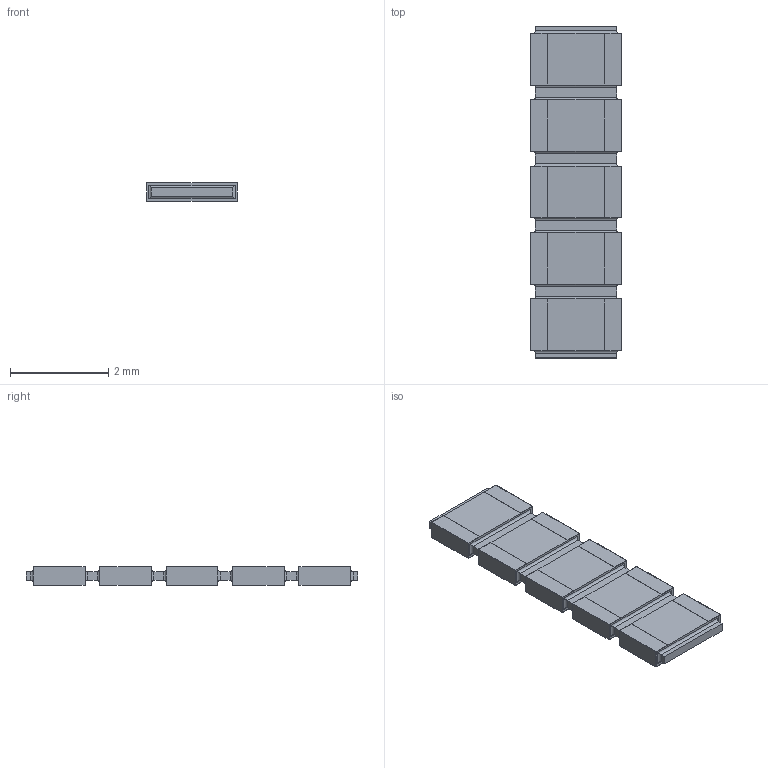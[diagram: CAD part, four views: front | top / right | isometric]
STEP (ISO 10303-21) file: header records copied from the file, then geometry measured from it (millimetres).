
FILE_DESCRIPTION(/* description */ (''),/* implementation_level */ '2;1');
FILE_NAME(/* name */ 'S:\DOCUMENT\AUTOCAD\3D_Modèles\10_3D-pour-VISHAY-COM\PRA\PRAHR135I5_B.stp',/* time_stamp */ '2018-02-02T10:50:18+01:00',/* author */ ('dparmentier'),/* organization */ ('unknown'),/* preprocessor_version */ 'ST-DEVELOPER v17',/* originating_system */ 'Autodesk Inventor 2018',/* authorisation */ '');
FILE_SCHEMA (('AUTOMOTIVE_DESIGN { 1 0 10303 214 3 1 1 }'));
Length unit declared in the file: millimetre
Products named in the file (1): PRAHR135I5_B
Bounding box: 1.85 x 6.75 x 0.38 mm (x, y, z)
Volume: 4.1 mm3; surface area: 54.6 mm2
Topology: 11 solids, 11 shells, 196 faces, 452 edges, 288 vertices
Faces by surface type: plane 156, cylinder 40
Entity records: 5459 total; most frequent: CARTESIAN_POINT 937, ORIENTED_EDGE 904, DIRECTION 886, EDGE_CURVE 452, LINE 412, VECTOR 412, VERTEX_POINT 288, AXIS2_PLACEMENT_3D 237
